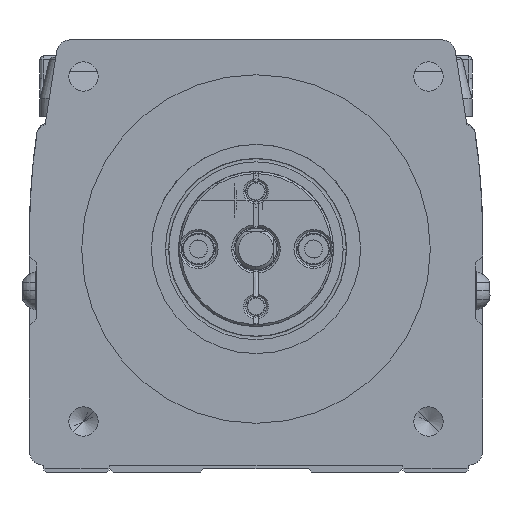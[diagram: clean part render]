
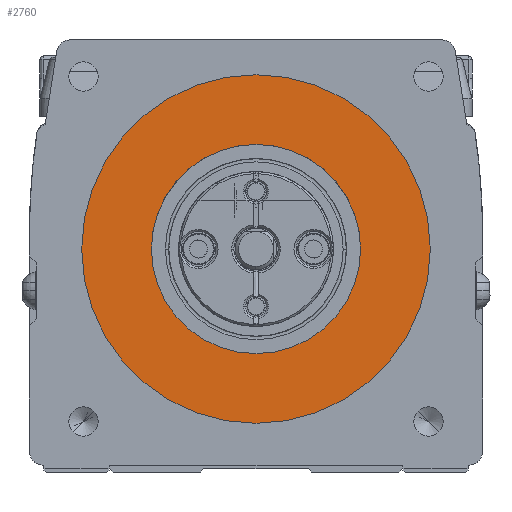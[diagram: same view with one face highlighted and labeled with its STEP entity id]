
A CAD part, left-side view. The second image highlights one B-rep face of the part: STEP entity #2760.
In plain terms, the highlighted planar face has unit normal (-1, 0, 0).
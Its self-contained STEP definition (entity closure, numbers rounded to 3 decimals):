
#2760=ADVANCED_FACE('',(#5115,#5116),#5117,.F.);
#5115=FACE_BOUND('',#10060,.T.);
#5116=FACE_OUTER_BOUND('',#10061,.T.);
#5117=PLANE('',#10062);
#10060=EDGE_LOOP('',(#17240,#17241));
#10061=EDGE_LOOP('',(#17242,#17243));
#10062=AXIS2_PLACEMENT_3D('',#17244,#17245,#17246);
#17240=ORIENTED_EDGE('',*,*,#35635,.T.);
#17241=ORIENTED_EDGE('',*,*,#35733,.T.);
#17242=ORIENTED_EDGE('',*,*,#35766,.T.);
#17243=ORIENTED_EDGE('',*,*,#35627,.T.);
#17244=CARTESIAN_POINT('',(-76.5,0.,0.));
#17245=DIRECTION('',(1.0,0.,0.));
#17246=DIRECTION('',(0.,1.0,0.));
#35627=EDGE_CURVE('',#41632,#41629,#41633,.T.);
#35635=EDGE_CURVE('',#41646,#41643,#41647,.T.);
#35733=EDGE_CURVE('',#41643,#41646,#41808,.T.);
#35766=EDGE_CURVE('',#41629,#41632,#41865,.T.);
#41629=VERTEX_POINT('',#51549);
#41632=VERTEX_POINT('',#51553);
#41633=CIRCLE('',#51554,25.0);
#41643=VERTEX_POINT('',#51589);
#41646=VERTEX_POINT('',#51593);
#41647=CIRCLE('',#51594,15.0);
#41808=CIRCLE('',#51876,15.0);
#41865=CIRCLE('',#52012,25.0);
#51549=CARTESIAN_POINT('',(-76.5,25.,0.));
#51553=CARTESIAN_POINT('',(-76.5,-25.,0.));
#51554=AXIS2_PLACEMENT_3D('',#66803,#66804,#66805);
#51589=CARTESIAN_POINT('',(-76.5,15.0,0.));
#51593=CARTESIAN_POINT('',(-76.5,-15.,0.));
#51594=AXIS2_PLACEMENT_3D('',#66813,#66814,#66815);
#51876=AXIS2_PLACEMENT_3D('',#66973,#66974,#66975);
#52012=AXIS2_PLACEMENT_3D('',#67030,#67031,#67032);
#66803=CARTESIAN_POINT('',(-76.5,0.,0.));
#66804=DIRECTION('',(-1.0,0.,0.));
#66805=DIRECTION('',(0.,1.0,0.));
#66813=CARTESIAN_POINT('',(-76.5,0.,0.));
#66814=DIRECTION('',(1.0,0.,0.));
#66815=DIRECTION('',(0.,1.0,0.));
#66973=CARTESIAN_POINT('',(-76.5,0.,0.));
#66974=DIRECTION('',(1.0,0.,0.));
#66975=DIRECTION('',(0.,1.0,0.));
#67030=CARTESIAN_POINT('',(-76.5,0.,0.));
#67031=DIRECTION('',(-1.0,0.,0.));
#67032=DIRECTION('',(0.,1.0,0.));
